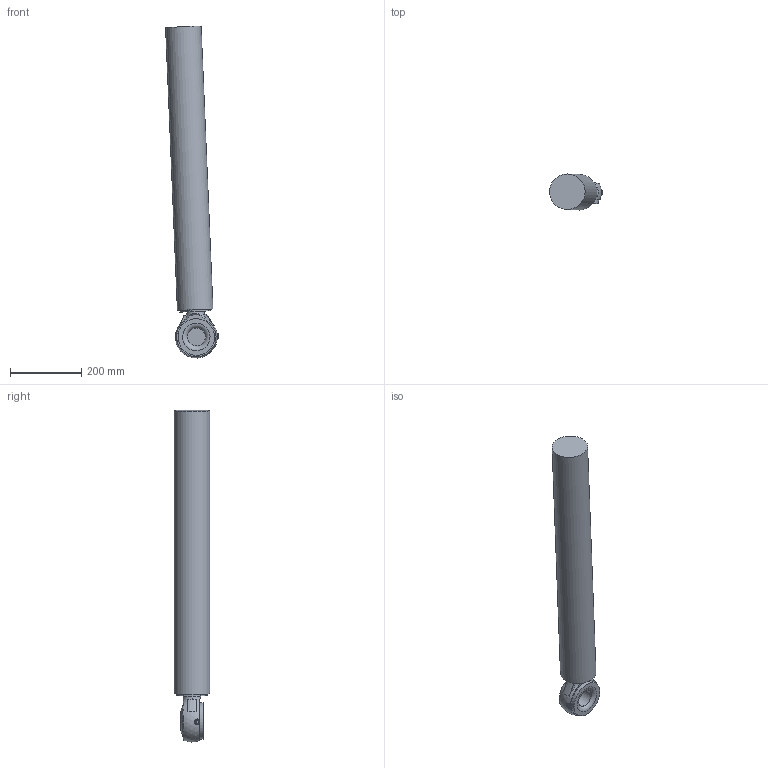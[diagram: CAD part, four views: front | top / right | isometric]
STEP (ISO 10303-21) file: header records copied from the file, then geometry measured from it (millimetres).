
FILE_DESCRIPTION (( 'STEP AP214' ), '1' );
FILE_NAME ('IRB77X0_All_OC_00_ROD_CAD.step', '2026-01-28T09:31:41', ( '' ), ( '' ), 'SwSTEP 2.0', 'SolidWorks 2024', '' );
FILE_SCHEMA (( 'AUTOMOTIVE_DESIGN' ));
Length unit declared in the file: millimetre
Products named in the file (1): IRB77X0_All_OC_00_ROD_CAD
Bounding box: 148.57 x 100 x 933.24 mm (x, y, z)
Volume: 6823163.8 mm3; surface area: 314135.3 mm2
Topology: 1 solids, 1 shells, 56 faces, 127 edges, 86 vertices
Faces by surface type: plane 30, cone 12, cylinder 10, sphere 2, torus 2
Full cylindrical faces by diameter (mm): 8 x1, 12 x1, 16 x1, 50 x1, 86 x1, 91 x1, 100 x2, 103 x1
Entity records: 2384 total; most frequent: CARTESIAN_POINT 587, DIRECTION 241, ORIENTED_EDGE 214, AXIS2_PLACEMENT_3D 110, EDGE_CURVE 107, EDGE_LOOP 83, VERTEX_POINT 80, FACE_OUTER_BOUND 68
